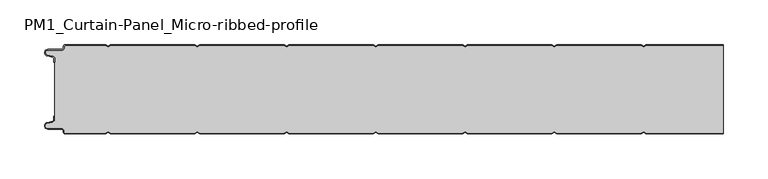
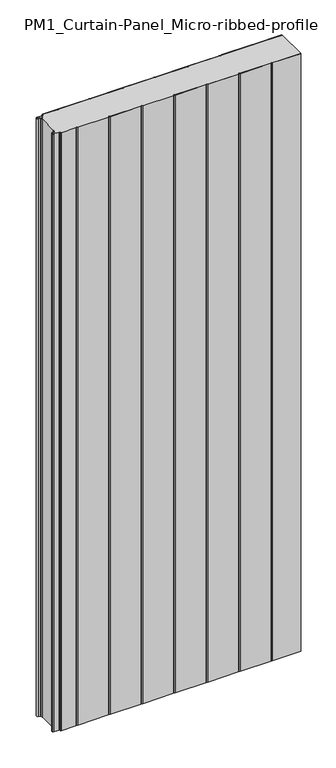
"""IFC4 building model written with IfcOpenShell, lengths in millimetres: plate geometry, PM1_Curtain-Panel_Micro-ribbed-profile : ACH_PM1_Acoustic-Sectioning-Panel_100M."""

from ifc_helpers import new_model, si_unit, point, frame_2d, origin, origin_with_axes, place, context, project, spatial, polyline, circle_curve, trimmed, segment, composite_curve, outline, extrude, source, transform, mapped, element, save


def pm1_curtain_panel_micro_ribbed_profile_ab274a87(model_context):
    return source(origin(), model_context, "Body", "SweptSolid", [
        extrude(outline(composite_curve([segment(trimmed(circle_curve(frame_2d((-377.0119739, -15.878557)), 2.0), [point((-375.0119739, -15.878557))], [point((-376.5620718, -13.9298169))], True, "CARTESIAN"), True, "CONTINUOUS"), segment(polyline([(-376.5620718, -13.9298169), (-382.7217978, -12.507732)]), True, "CONTINUOUS"), segment(trimmed(circle_curve(frame_2d((-381.9119739, -9.0)), 3.6), [point((-382.7217978, -12.507732))], [point((-381.9119739, -5.4))], False, "CARTESIAN"), True, "CONTINUOUS"), segment(polyline([(-381.9119739, -5.4), (-366.4119739, -5.4)]), True, "CONTINUOUS"), segment(trimmed(circle_curve(frame_2d((-366.4119739, -3.4)), 2.0), [point((-366.4119739, -5.4))], [point((-364.4119739, -3.4))], True, "CARTESIAN"), True, "CONTINUOUS"), segment(polyline([(-364.4119739, -3.4), (-364.4119739, -2.0)]), True, "CONTINUOUS"), segment(trimmed(circle_curve(frame_2d((-362.4119739, -2.0)), 2.0), [point((-364.4119739, -2.0))], [point((-362.4119739, 0.0))], False, "CARTESIAN"), True, "CONTINUOUS"), segment(polyline([(-362.4119739, 0.0), (-317.1119734, 0.0), (-314.4119739, -1.5588455), (-311.7119745, 0.0), (-217.1119734, 0.0), (-214.4119739, -1.5588455), (-211.7119745, 0.0), (-117.1119734, 0.0), (-114.4119739, -1.5588455), (-111.7119745, 0.0), (-17.1119734, 0.0), (-14.4119739, -1.5588455), (-11.7119745, 0.0), (82.8880266, 0.0), (85.5880261, -1.5588455), (88.2880255, 0.0), (182.8880266, 0.0), (185.5880261, -1.5588455), (188.2880255, 0.0), (282.8880266, 0.0), (285.5880261, -1.5588455), (288.2880255, 0.0), (375.0119739, 0.0), (375.0119739, -0.8), (288.5023849, -0.8), (285.5880261, -2.482606), (282.6736672, -0.8), (188.5023849, -0.8), (185.5880261, -2.482606), (182.6736672, -0.8), (88.5023849, -0.8), (85.5880261, -2.482606), (82.6736672, -0.8), (-11.4976151, -0.8), (-14.4119739, -2.482606), (-17.3263328, -0.8), (-111.4976151, -0.8), (-114.4119739, -2.482606), (-117.3263328, -0.8), (-211.4976151, -0.8), (-214.4119739, -2.482606), (-217.3263328, -0.8), (-311.4976151, -0.8), (-314.4119739, -2.482606), (-317.3263328, -0.8), (-362.4119739, -0.8)]), True, "CONTINUOUS"), segment(trimmed(circle_curve(frame_2d((-362.4119739, -2.0)), 1.2), [point((-362.4119739, -0.8))], [point((-363.6119739, -2.0))], True, "CARTESIAN"), True, "CONTINUOUS"), segment(polyline([(-363.6119739, -2.0), (-363.6119739, -3.4)]), True, "CONTINUOUS"), segment(trimmed(circle_curve(frame_2d((-366.4119739, -3.4)), 2.8), [point((-363.6119739, -3.4))], [point((-366.4119739, -6.2))], False, "CARTESIAN"), True, "CONTINUOUS"), segment(polyline([(-366.4119739, -6.2), (-381.9119739, -6.2)]), True, "CONTINUOUS"), segment(trimmed(circle_curve(frame_2d((-381.9119739, -9.0)), 2.8), [point((-381.9119739, -6.2))], [point((-382.541837, -11.7282362))], True, "CARTESIAN"), True, "CONTINUOUS"), segment(polyline([(-382.541837, -11.7282362), (-376.3821109, -13.150321)]), True, "CONTINUOUS"), segment(trimmed(circle_curve(frame_2d((-377.0119739, -15.878557)), 2.8), [point((-376.3821109, -13.150321))], [point((-374.2119739, -15.878557))], False, "CARTESIAN"), True, "CONTINUOUS"), segment(polyline([(-374.2119739, -15.878557), (-374.2119739, -20.0), (-375.0119739, -20.0), (-375.0119739, -15.878557)]), True, "CONTINUOUS")], self_intersect=False)), origin_with_axes(), (0.0, 0.0, 1.0), 1945.7507136),
        extrude(outline(composite_curve([segment(polyline([(-374.2119739, -84.1214426), (-374.2119739, -15.8785573)]), True, "CONTINUOUS"), segment(trimmed(circle_curve(frame_2d((-377.0119739, -15.8785573)), 2.8), [point((-374.2119739, -15.8785573))], [point((-376.3821109, -13.1503212))], True, "CARTESIAN"), True, "CONTINUOUS"), segment(polyline([(-376.3821109, -13.1503212), (-382.541837, -11.7282362)]), True, "CONTINUOUS"), segment(trimmed(circle_curve(frame_2d((-381.911974, -9.0)), 2.8), [point((-382.541837, -11.7282362))], [point((-381.911974, -6.2))], False, "CARTESIAN"), True, "CONTINUOUS"), segment(polyline([(-381.911974, -6.2), (-366.411974, -6.2)]), True, "CONTINUOUS"), segment(trimmed(circle_curve(frame_2d((-366.411974, -3.4)), 2.8), [point((-366.411974, -6.2))], [point((-363.611974, -3.4))], True, "CARTESIAN"), True, "CONTINUOUS"), segment(polyline([(-363.611974, -3.4), (-363.611974, -2.0)]), True, "CONTINUOUS"), segment(trimmed(circle_curve(frame_2d((-362.411974, -2.0)), 1.2), [point((-363.611974, -2.0))], [point((-362.411974, -0.8))], False, "CARTESIAN"), True, "CONTINUOUS"), segment(polyline([(-362.411974, -0.8), (-317.3263329, -0.8), (-314.411974, -2.482606), (-311.4976152, -0.8), (-217.3263329, -0.8), (-214.411974, -2.482606), (-211.4976152, -0.8), (-117.3263329, -0.8), (-114.411974, -2.482606), (-111.4976152, -0.8), (-17.3263329, -0.8), (-14.411974, -2.482606), (-11.4976152, -0.8), (82.6736671, -0.8), (85.588026, -2.482606), (88.5023848, -0.8), (182.6736671, -0.8), (185.588026, -2.482606), (188.5023848, -0.8), (282.6736671, -0.8), (285.588026, -2.482606), (288.5023848, -0.8), (375.0119739, -0.8), (375.0119739, -99.2), (288.5023848, -99.2), (285.588026, -97.517394), (282.6736671, -99.2), (188.5023848, -99.2), (185.588026, -97.517394), (182.6736671, -99.2), (88.5023848, -99.2), (85.588026, -97.517394), (82.6736671, -99.2), (-11.4976152, -99.2), (-14.411974, -97.517394), (-17.3263329, -99.2), (-111.4976152, -99.2), (-114.411974, -97.517394), (-117.3263329, -99.2), (-211.4976152, -99.2), (-214.411974, -97.517394), (-217.3263329, -99.2), (-311.4976152, -99.2), (-314.411974, -97.517394), (-317.3263329, -99.2), (-362.411974, -99.2)]), True, "CONTINUOUS"), segment(trimmed(circle_curve(frame_2d((-362.411974, -98.0)), 1.2), [point((-362.411974, -99.2))], [point((-363.611974, -98.0))], False, "CARTESIAN"), True, "CONTINUOUS"), segment(polyline([(-363.611974, -98.0), (-363.611974, -96.6)]), True, "CONTINUOUS"), segment(trimmed(circle_curve(frame_2d((-366.411974, -96.6)), 2.8), [point((-363.611974, -96.6))], [point((-366.411974, -93.8))], True, "CARTESIAN"), True, "CONTINUOUS"), segment(polyline([(-366.411974, -93.8), (-381.911974, -93.8)]), True, "CONTINUOUS"), segment(trimmed(circle_curve(frame_2d((-381.911974, -91.0)), 2.8), [point((-381.911974, -93.8))], [point((-382.541837, -88.2717638))], False, "CARTESIAN"), True, "CONTINUOUS"), segment(polyline([(-382.541837, -88.2717638), (-376.3821109, -86.8496788)]), True, "CONTINUOUS"), segment(trimmed(circle_curve(frame_2d((-377.0119739, -84.1214426)), 2.8), [point((-376.3821109, -86.8496788))], [point((-374.2119739, -84.1214426))], True, "CARTESIAN"), True, "CONTINUOUS")], self_intersect=False)), origin_with_axes(), (0.0, 0.0, 1.0), 1945.7507136),
        extrude(outline(composite_curve([segment(polyline([(-375.0119739, -84.121443), (-375.0119739, -80.0), (-374.2119739, -80.0), (-374.2119739, -84.121443)]), True, "CONTINUOUS"), segment(trimmed(circle_curve(frame_2d((-377.0119739, -84.121443)), 2.8), [point((-374.2119739, -84.121443))], [point((-376.3821109, -86.8496792))], False, "CARTESIAN"), True, "CONTINUOUS"), segment(polyline([(-376.3821109, -86.8496792), (-382.5418369, -88.271764)]), True, "CONTINUOUS"), segment(trimmed(circle_curve(frame_2d((-381.9119739, -91.0)), 2.8), [point((-382.5418369, -88.271764))], [point((-381.9119739, -93.8))], True, "CARTESIAN"), True, "CONTINUOUS"), segment(polyline([(-381.9119739, -93.8), (-366.4119739, -93.8)]), True, "CONTINUOUS"), segment(trimmed(circle_curve(frame_2d((-366.4119739, -96.6)), 2.8), [point((-366.4119739, -93.8))], [point((-363.6119739, -96.6))], False, "CARTESIAN"), True, "CONTINUOUS"), segment(polyline([(-363.6119739, -96.6), (-363.6119739, -98.0)]), True, "CONTINUOUS"), segment(trimmed(circle_curve(frame_2d((-362.4119739, -98.0)), 1.2), [point((-363.6119739, -98.0))], [point((-362.4119739, -99.2))], True, "CARTESIAN"), True, "CONTINUOUS"), segment(polyline([(-362.4119739, -99.2), (-317.3263328, -99.2), (-314.4119739, -97.517394), (-311.4976151, -99.2), (-217.3263328, -99.2), (-214.4119739, -97.517394), (-211.4976151, -99.2), (-117.3263328, -99.2), (-114.4119739, -97.517394), (-111.4976151, -99.2), (-17.3263328, -99.2), (-14.4119739, -97.517394), (-11.4976151, -99.2), (82.6736672, -99.2), (85.5880261, -97.517394), (88.5023849, -99.2), (182.6736672, -99.2), (185.5880261, -97.517394), (188.5023849, -99.2), (282.6736672, -99.2), (285.5880261, -97.517394), (288.5023849, -99.2), (375.0119739, -99.2), (375.0119739, -100.0), (288.2880255, -100.0), (285.5880261, -98.4411545), (282.8880266, -100.0), (188.2880255, -100.0), (185.5880261, -98.4411545), (182.8880266, -100.0), (88.2880255, -100.0), (85.5880261, -98.4411545), (82.8880266, -100.0), (-11.7119745, -100.0), (-14.4119739, -98.4411545), (-17.1119734, -100.0), (-111.7119745, -100.0), (-114.4119739, -98.4411545), (-117.1119734, -100.0), (-211.7119745, -100.0), (-214.4119739, -98.4411545), (-217.1119734, -100.0), (-311.7119745, -100.0), (-314.4119739, -98.4411545), (-317.1119734, -100.0), (-362.4119739, -100.0)]), True, "CONTINUOUS"), segment(trimmed(circle_curve(frame_2d((-362.4119739, -98.0)), 2.0), [point((-362.4119739, -100.0))], [point((-364.4119739, -98.0))], False, "CARTESIAN"), True, "CONTINUOUS"), segment(polyline([(-364.4119739, -98.0), (-364.4119739, -96.6)]), True, "CONTINUOUS"), segment(trimmed(circle_curve(frame_2d((-366.4119739, -96.6)), 2.0), [point((-364.4119739, -96.6))], [point((-366.4119739, -94.6))], True, "CARTESIAN"), True, "CONTINUOUS"), segment(polyline([(-366.4119739, -94.6), (-381.9119739, -94.6)]), True, "CONTINUOUS"), segment(trimmed(circle_curve(frame_2d((-381.9119739, -91.0)), 3.6), [point((-381.9119739, -94.6))], [point((-382.7217979, -87.4922678))], False, "CARTESIAN"), True, "CONTINUOUS"), segment(polyline([(-382.7217979, -87.4922678), (-376.5620718, -86.070183)]), True, "CONTINUOUS"), segment(trimmed(circle_curve(frame_2d((-377.0119739, -84.121443)), 2.0), [point((-376.5620718, -86.070183))], [point((-375.0119739, -84.121443))], True, "CARTESIAN"), True, "CONTINUOUS")], self_intersect=False)), origin_with_axes(), (0.0, 0.0, 1.0), 1945.7507136),
    ])


if __name__ == "__main__":
    model = new_model("IFC4")
    model_context = context("Model", 3, world=origin())
    ifc_project = project(units=[si_unit("LENGTHUNIT", "METRE", prefix="MILLI")], contexts=[model_context])
    site = spatial("IfcSite", under=ifc_project)
    building = spatial("IfcBuilding", under=site)
    placement = place(None, origin())
    pm1_curtain_panel_micro_ribbed_profile_shape = pm1_curtain_panel_micro_ribbed_profile_ab274a87(model_context)
    element("IfcPlate", 1, ObjectType="PM1_Curtain-Panel_Micro-ribbed-profile : ACH_PM1_Acoustic-Sectioning-Panel_100M", at=placement, inside=building, context=model_context, shape_type="MappedRepresentation", body=[
        mapped(pm1_curtain_panel_micro_ribbed_profile_shape, transform((0.0, 0.0, 0.0), x_axis=(1.0, 0.0, 0.0), y_axis=(0.0, 1.0, 0.0), z_axis=(0.0, 0.0, 1.0))),
    ])
    save(model, "model.ifc")
